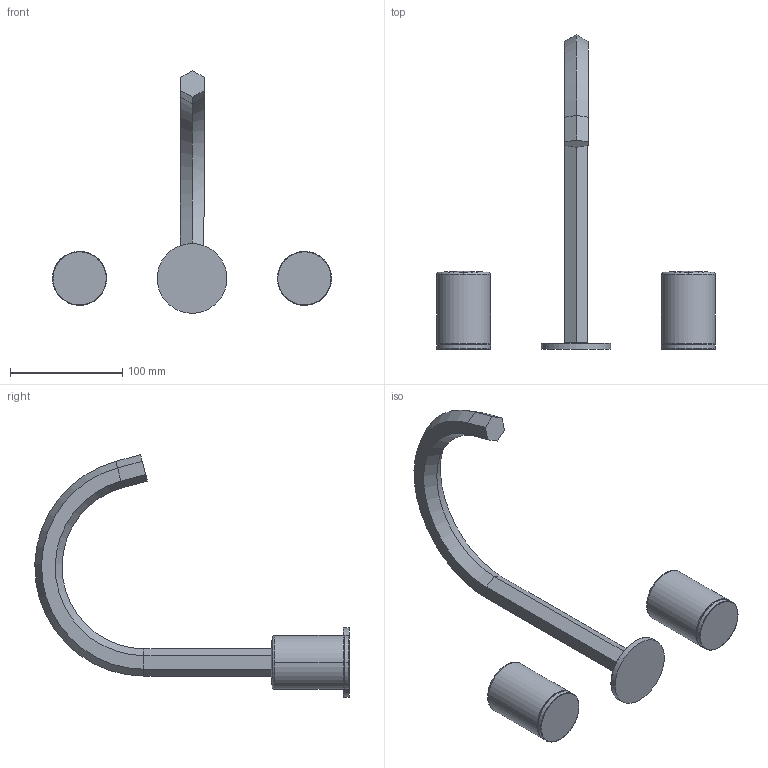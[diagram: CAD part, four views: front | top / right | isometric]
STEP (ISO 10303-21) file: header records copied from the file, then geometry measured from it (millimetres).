
FILE_DESCRIPTION((''),'2;1');
FILE_NAME('0000234467_ASM','2024-04-10T09:08:52',('Luca'),(''),'CREO PARAMETRIC BY PTC INC, 2023154','CREO PARAMETRIC BY PTC INC, 2023154','');
FILE_SCHEMA(('AUTOMOTIVE_DESIGN { 1 0 10303 214 1 1 1 1 }'));
Length unit declared in the file: millimetre
Products named in the file (5): LABEL-925; LABEL-1295; LABEL-1665; TOP_ASM; 0000234467_ASM
Assembly tree (4 placements, depth 3):
  0000234467_ASM
    TOP_ASM
      LABEL-925
      LABEL-1295
      LABEL-1665
Bounding box: 248 x 279.58 x 215.71 mm (x, y, z)
Volume: 419275.1 mm3; surface area: 75603.6 mm2
Topology: 3 solids, 27 shells, 70 faces, 196 edges, 154 vertices
Faces by surface type: plane 28, torus 18, cylinder 16, cone 4, sphere 4
Entity records: 5533 total; most frequent: CARTESIAN_POINT 1796, DIRECTION 520, ORIENTED_EDGE 304, PRESENTATION_STYLE_ASSIGNMENT 270, STYLED_ITEM 242, AXIS2_PLACEMENT_3D 223, CURVE_STYLE 197, EDGE_CURVE 192
